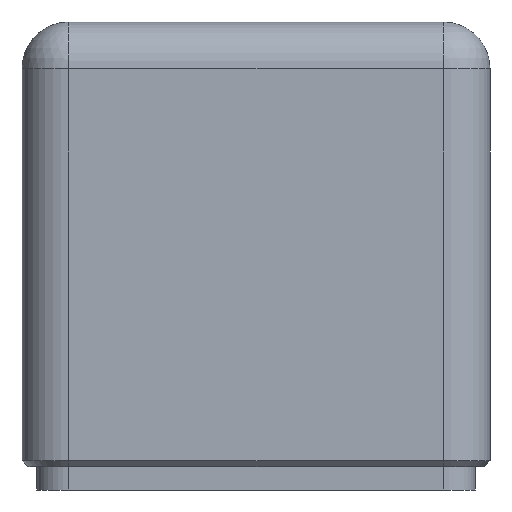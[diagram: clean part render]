
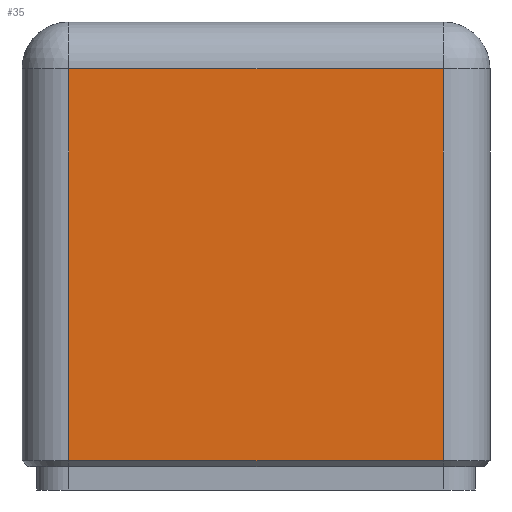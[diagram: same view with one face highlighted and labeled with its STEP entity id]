
A CAD part, left-side view. The second image highlights one B-rep face of the part: STEP entity #35.
In plain terms, the highlighted planar face has unit normal (-1, 0, 0).
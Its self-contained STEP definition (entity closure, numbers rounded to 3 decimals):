
#35 = ADVANCED_FACE('',(#36),#50,.F.);
#36 = FACE_BOUND('',#37,.F.);
#37 = EDGE_LOOP('',(#38,#73,#101,#129));
#38 = ORIENTED_EDGE('',*,*,#39,.F.);
#39 = EDGE_CURVE('',#40,#42,#44,.T.);
#40 = VERTEX_POINT('',#41);
#41 = CARTESIAN_POINT('',(-8.,-6.4,1.));
#42 = VERTEX_POINT('',#43);
#43 = CARTESIAN_POINT('',(-8.,-6.4,14.4));
#44 = SURFACE_CURVE('',#45,(#49,#61),.PCURVE_S1.);
#45 = LINE('',#46,#47);
#46 = CARTESIAN_POINT('',(-8.,-6.4,0.8));
#47 = VECTOR('',#48,1.);
#48 = DIRECTION('',(0.,0.,1.));
#49 = PCURVE('',#50,#55);
#50 = PLANE('',#51);
#51 = AXIS2_PLACEMENT_3D('',#52,#53,#54);
#52 = CARTESIAN_POINT('',(-8.,-8.,0.8));
#53 = DIRECTION('',(1.,0.,-0.));
#54 = DIRECTION('',(0.,0.,1.));
#55 = DEFINITIONAL_REPRESENTATION('',(#56),#60);
#56 = LINE('',#57,#58);
#57 = CARTESIAN_POINT('',(0.,-1.6));
#58 = VECTOR('',#59,1.);
#59 = DIRECTION('',(1.,0.));
#60 = ( GEOMETRIC_REPRESENTATION_CONTEXT(2) 
PARAMETRIC_REPRESENTATION_CONTEXT() REPRESENTATION_CONTEXT('2D SPACE',''
  ) );
#61 = PCURVE('',#62,#67);
#62 = CYLINDRICAL_SURFACE('',#63,1.6);
#63 = AXIS2_PLACEMENT_3D('',#64,#65,#66);
#64 = CARTESIAN_POINT('',(-6.4,-6.4,0.8));
#65 = DIRECTION('',(0.,0.,1.));
#66 = DIRECTION('',(-1.,-0.,0.));
#67 = DEFINITIONAL_REPRESENTATION('',(#68),#72);
#68 = LINE('',#69,#70);
#69 = CARTESIAN_POINT('',(0.,0.));
#70 = VECTOR('',#71,1.);
#71 = DIRECTION('',(0.,1.));
#72 = ( GEOMETRIC_REPRESENTATION_CONTEXT(2) 
PARAMETRIC_REPRESENTATION_CONTEXT() REPRESENTATION_CONTEXT('2D SPACE',''
  ) );
#73 = ORIENTED_EDGE('',*,*,#74,.T.);
#74 = EDGE_CURVE('',#40,#75,#77,.T.);
#75 = VERTEX_POINT('',#76);
#76 = CARTESIAN_POINT('',(-8.,6.4,1.));
#77 = SURFACE_CURVE('',#78,(#82,#89),.PCURVE_S1.);
#78 = LINE('',#79,#80);
#79 = CARTESIAN_POINT('',(-8.,-6.4,1.));
#80 = VECTOR('',#81,1.);
#81 = DIRECTION('',(-0.,1.,0.));
#82 = PCURVE('',#50,#83);
#83 = DEFINITIONAL_REPRESENTATION('',(#84),#88);
#84 = LINE('',#85,#86);
#85 = CARTESIAN_POINT('',(0.2,-1.6));
#86 = VECTOR('',#87,1.);
#87 = DIRECTION('',(0.,-1.));
#88 = ( GEOMETRIC_REPRESENTATION_CONTEXT(2) 
PARAMETRIC_REPRESENTATION_CONTEXT() REPRESENTATION_CONTEXT('2D SPACE',''
  ) );
#89 = PCURVE('',#90,#95);
#90 = PLANE('',#91);
#91 = AXIS2_PLACEMENT_3D('',#92,#93,#94);
#92 = CARTESIAN_POINT('',(-7.9,-6.4,0.9));
#93 = DIRECTION('',(-0.707,0.,-0.707)
  );
#94 = DIRECTION('',(0.,1.,0.));
#95 = DEFINITIONAL_REPRESENTATION('',(#96),#100);
#96 = LINE('',#97,#98);
#97 = CARTESIAN_POINT('',(0.,-0.141));
#98 = VECTOR('',#99,1.);
#99 = DIRECTION('',(1.,0.));
#100 = ( GEOMETRIC_REPRESENTATION_CONTEXT(2) 
PARAMETRIC_REPRESENTATION_CONTEXT() REPRESENTATION_CONTEXT('2D SPACE',''
  ) );
#101 = ORIENTED_EDGE('',*,*,#102,.T.);
#102 = EDGE_CURVE('',#75,#103,#105,.T.);
#103 = VERTEX_POINT('',#104);
#104 = CARTESIAN_POINT('',(-8.,6.4,14.4));
#105 = SURFACE_CURVE('',#106,(#110,#117),.PCURVE_S1.);
#106 = LINE('',#107,#108);
#107 = CARTESIAN_POINT('',(-8.,6.4,0.8));
#108 = VECTOR('',#109,1.);
#109 = DIRECTION('',(0.,0.,1.));
#110 = PCURVE('',#50,#111);
#111 = DEFINITIONAL_REPRESENTATION('',(#112),#116);
#112 = LINE('',#113,#114);
#113 = CARTESIAN_POINT('',(0.,-14.4));
#114 = VECTOR('',#115,1.);
#115 = DIRECTION('',(1.,0.));
#116 = ( GEOMETRIC_REPRESENTATION_CONTEXT(2) 
PARAMETRIC_REPRESENTATION_CONTEXT() REPRESENTATION_CONTEXT('2D SPACE',''
  ) );
#117 = PCURVE('',#118,#123);
#118 = CYLINDRICAL_SURFACE('',#119,1.6);
#119 = AXIS2_PLACEMENT_3D('',#120,#121,#122);
#120 = CARTESIAN_POINT('',(-6.4,6.4,0.8));
#121 = DIRECTION('',(0.,0.,1.));
#122 = DIRECTION('',(-1.,-0.,0.));
#123 = DEFINITIONAL_REPRESENTATION('',(#124),#128);
#124 = LINE('',#125,#126);
#125 = CARTESIAN_POINT('',(-0.,0.));
#126 = VECTOR('',#127,1.);
#127 = DIRECTION('',(-0.,1.));
#128 = ( GEOMETRIC_REPRESENTATION_CONTEXT(2) 
PARAMETRIC_REPRESENTATION_CONTEXT() REPRESENTATION_CONTEXT('2D SPACE',''
  ) );
#129 = ORIENTED_EDGE('',*,*,#130,.F.);
#130 = EDGE_CURVE('',#42,#103,#131,.T.);
#131 = SURFACE_CURVE('',#132,(#136,#143),.PCURVE_S1.);
#132 = LINE('',#133,#134);
#133 = CARTESIAN_POINT('',(-8.,-6.4,14.4));
#134 = VECTOR('',#135,1.);
#135 = DIRECTION('',(-0.,1.,0.));
#136 = PCURVE('',#50,#137);
#137 = DEFINITIONAL_REPRESENTATION('',(#138),#142);
#138 = LINE('',#139,#140);
#139 = CARTESIAN_POINT('',(13.6,-1.6));
#140 = VECTOR('',#141,1.);
#141 = DIRECTION('',(0.,-1.));
#142 = ( GEOMETRIC_REPRESENTATION_CONTEXT(2) 
PARAMETRIC_REPRESENTATION_CONTEXT() REPRESENTATION_CONTEXT('2D SPACE',''
  ) );
#143 = PCURVE('',#144,#149);
#144 = CYLINDRICAL_SURFACE('',#145,1.6);
#145 = AXIS2_PLACEMENT_3D('',#146,#147,#148);
#146 = CARTESIAN_POINT('',(-6.4,-6.4,14.4));
#147 = DIRECTION('',(-0.,1.,0.));
#148 = DIRECTION('',(-1.,-0.,0.));
#149 = DEFINITIONAL_REPRESENTATION('',(#150),#154);
#150 = LINE('',#151,#152);
#151 = CARTESIAN_POINT('',(0.,0.));
#152 = VECTOR('',#153,1.);
#153 = DIRECTION('',(0.,1.));
#154 = ( GEOMETRIC_REPRESENTATION_CONTEXT(2) 
PARAMETRIC_REPRESENTATION_CONTEXT() REPRESENTATION_CONTEXT('2D SPACE',''
  ) );
